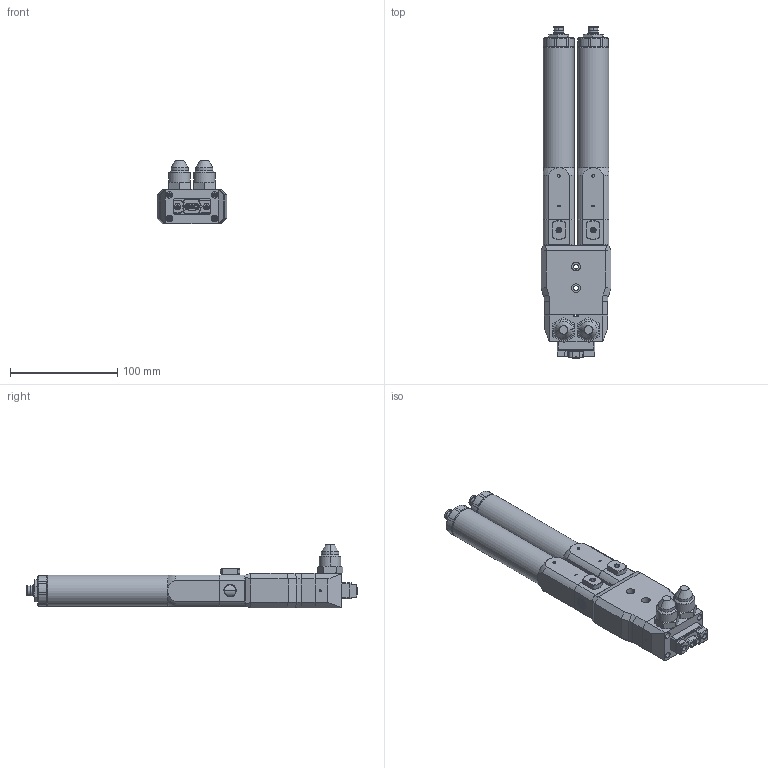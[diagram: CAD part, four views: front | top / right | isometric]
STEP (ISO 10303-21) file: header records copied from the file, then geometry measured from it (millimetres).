
FILE_DESCRIPTION (( 'STEP AP214' ), '1' );
FILE_NAME ('PDP-500-150BA.STEP', '2024-10-11T12:12:39', ( '' ), ( '' ), 'SwSTEP 2.0', 'SolidWorks 2024', '' );
FILE_SCHEMA (( 'AUTOMOTIVE_DESIGN' ));
Length unit declared in the file: millimetre
Products named in the file (1): PDP-500-150BA
Bounding box: 65 x 309 x 59.3 mm (x, y, z)
Volume: 464075.6 mm3; surface area: 105367.7 mm2
Topology: 13 solids, 13 shells, 1274 faces, 3175 edges, 2012 vertices
Faces by surface type: plane 495, cylinder 448, cone 275, bspline 38, torus 12, sphere 6
Full cylindrical faces by diameter (mm): 29 x2
Entity records: 76917 total; most frequent: CARTESIAN_POINT 47540, ORIENTED_EDGE 6284, DIRECTION 5782, EDGE_CURVE 3142, AXIS2_PLACEMENT_3D 2241, VERTEX_POINT 2011, EDGE_LOOP 1431, LINE 1300
